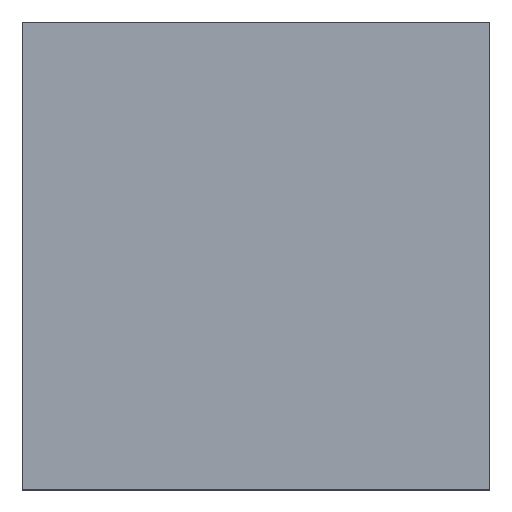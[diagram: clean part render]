
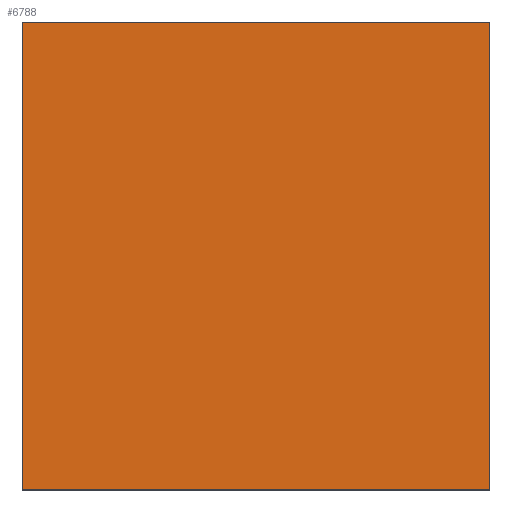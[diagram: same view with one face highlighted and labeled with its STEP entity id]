
A CAD part, top view. The second image highlights one B-rep face of the part: STEP entity #6788.
In plain terms, the highlighted planar face has unit normal (0, 0, 1).
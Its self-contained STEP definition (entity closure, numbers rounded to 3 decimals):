
#303 = CARTESIAN_POINT ( 'NONE',  ( 60., -60., 25.474 ) ) ;
#939 = CARTESIAN_POINT ( 'NONE',  ( -60., -60., 25.474 ) ) ;
#2257 = DIRECTION ( 'NONE',  ( 0., 1., 0. ) ) ;
#3397 = VECTOR ( 'NONE', #4559, 1000. ) ;
#3696 = VERTEX_POINT ( 'NONE', #13429 ) ;
#4035 = DIRECTION ( 'NONE',  ( -1., 0., 0. ) ) ;
#4559 = DIRECTION ( 'NONE',  ( 1., 0., 0. ) ) ;
#5887 = PLANE ( 'NONE',  #9021 ) ;
#5962 = LINE ( 'NONE', #19187, #9316 ) ;
#6788 = ADVANCED_FACE ( 'NONE', ( #22805 ), #5887, .F. ) ;
#6817 = VERTEX_POINT ( 'NONE', #13539 ) ;
#7826 = DIRECTION ( 'NONE',  ( 0., -1., 0. ) ) ;
#7951 = CARTESIAN_POINT ( 'NONE',  ( -60., 60., 25.474 ) ) ;
#8461 = DIRECTION ( 'NONE',  ( -1., 0., 0. ) ) ;
#9021 = AXIS2_PLACEMENT_3D ( 'NONE', #13416, #20963, #4035 ) ;
#9316 = VECTOR ( 'NONE', #2257, 1000. ) ;
#9627 = EDGE_CURVE ( 'NONE', #3696, #16307, #17864, .T. ) ;
#11332 = CARTESIAN_POINT ( 'NONE',  ( -60., -60., 25.474 ) ) ;
#11527 = LINE ( 'NONE', #303, #20173 ) ;
#11617 = ORIENTED_EDGE ( 'NONE', *, *, #9627, .F. ) ;
#12621 = EDGE_CURVE ( 'NONE', #23960, #6817, #13960, .T. ) ;
#13116 = ORIENTED_EDGE ( 'NONE', *, *, #12621, .F. ) ;
#13416 = CARTESIAN_POINT ( 'NONE',  ( 0., 0., 25.474 ) ) ;
#13429 = CARTESIAN_POINT ( 'NONE',  ( 60., -60., 25.474 ) ) ;
#13539 = CARTESIAN_POINT ( 'NONE',  ( 60., 60., 25.474 ) ) ;
#13800 = EDGE_CURVE ( 'NONE', #16307, #23960, #5962, .T. ) ;
#13960 = LINE ( 'NONE', #21506, #3397 ) ;
#16307 = VERTEX_POINT ( 'NONE', #11332 ) ;
#17080 = ORIENTED_EDGE ( 'NONE', *, *, #13800, .F. ) ;
#17864 = LINE ( 'NONE', #939, #24034 ) ;
#18162 = EDGE_LOOP ( 'NONE', ( #21919, #13116, #17080, #11617 ) ) ;
#19187 = CARTESIAN_POINT ( 'NONE',  ( -60., -60., 25.474 ) ) ;
#20173 = VECTOR ( 'NONE', #7826, 1000. ) ;
#20963 = DIRECTION ( 'NONE',  ( 0., 0., -1. ) ) ;
#21301 = EDGE_CURVE ( 'NONE', #6817, #3696, #11527, .T. ) ;
#21506 = CARTESIAN_POINT ( 'NONE',  ( -60., 60., 25.474 ) ) ;
#21919 = ORIENTED_EDGE ( 'NONE', *, *, #21301, .F. ) ;
#22805 = FACE_OUTER_BOUND ( 'NONE', #18162, .T. ) ;
#23960 = VERTEX_POINT ( 'NONE', #7951 ) ;
#24034 = VECTOR ( 'NONE', #8461, 1000. ) ;
